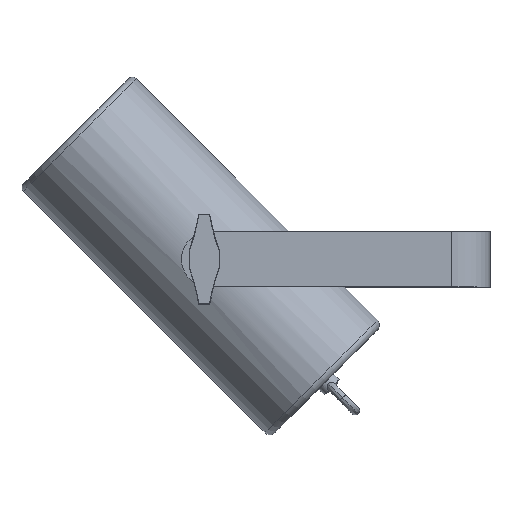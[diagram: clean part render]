
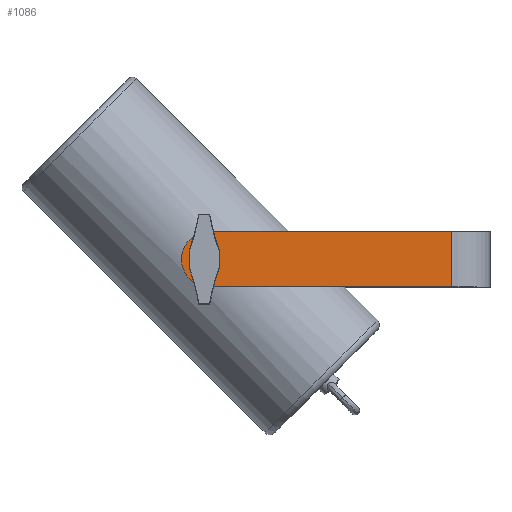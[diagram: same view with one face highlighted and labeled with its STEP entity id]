
A CAD part, top view. The second image highlights one B-rep face of the part: STEP entity #1086.
In plain terms, the highlighted planar face has unit normal (0, 0, 1).
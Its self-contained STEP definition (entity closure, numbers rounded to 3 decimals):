
#76=FACE_BOUND('',#229,.T.);
#106=PLANE('',#1215);
#156=FACE_OUTER_BOUND('',#228,.T.);
#228=EDGE_LOOP('',(#896,#897,#898,#899));
#229=EDGE_LOOP('',(#900));
#301=LINE('',#1757,#366);
#315=LINE('',#1800,#380);
#316=LINE('',#1801,#381);
#366=VECTOR('',#1417,40.);
#380=VECTOR('',#1467,175.);
#381=VECTOR('',#1468,175.);
#416=CIRCLE('',#1184,7.721);
#432=CIRCLE('',#1216,20.);
#502=VERTEX_POINT('',#1715);
#515=VERTEX_POINT('',#1750);
#517=VERTEX_POINT('',#1756);
#527=VERTEX_POINT('',#1797);
#528=VERTEX_POINT('',#1798);
#620=EDGE_CURVE('',#502,#502,#416,.T.);
#639=EDGE_CURVE('',#517,#515,#301,.T.);
#660=EDGE_CURVE('',#527,#528,#432,.T.);
#661=EDGE_CURVE('',#517,#527,#315,.T.);
#662=EDGE_CURVE('',#515,#528,#316,.T.);
#896=ORIENTED_EDGE('',*,*,#660,.F.);
#897=ORIENTED_EDGE('',*,*,#661,.F.);
#898=ORIENTED_EDGE('',*,*,#639,.T.);
#899=ORIENTED_EDGE('',*,*,#662,.T.);
#900=ORIENTED_EDGE('',*,*,#620,.T.);
#1086=ADVANCED_FACE('',(#156,#76),#106,.T.);
#1184=AXIS2_PLACEMENT_3D('',#1717,#1377,#1378);
#1215=AXIS2_PLACEMENT_3D('',#1796,#1463,#1464);
#1216=AXIS2_PLACEMENT_3D('',#1799,#1465,#1466);
#1377=DIRECTION('center_axis',(0.,0.,-1.));
#1378=DIRECTION('ref_axis',(0.,1.,0.));
#1417=DIRECTION('',(0.,1.,0.));
#1463=DIRECTION('center_axis',(0.,0.,1.));
#1464=DIRECTION('ref_axis',(0.,1.,0.));
#1465=DIRECTION('center_axis',(0.,0.,-1.));
#1466=DIRECTION('ref_axis',(0.,-1.,0.));
#1467=DIRECTION('',(-1.,0.,0.));
#1468=DIRECTION('',(-1.,0.,0.));
#1715=CARTESIAN_POINT('',(119.4,-7.721,67.5));
#1717=CARTESIAN_POINT('Origin',(119.4,0.,67.5));
#1750=CARTESIAN_POINT('',(297.9,20.,67.5));
#1756=CARTESIAN_POINT('',(297.9,-20.,67.5));
#1757=CARTESIAN_POINT('',(297.9,-20.,67.5));
#1796=CARTESIAN_POINT('Origin',(325.9,30.,67.5));
#1797=CARTESIAN_POINT('',(122.9,-20.,67.5));
#1798=CARTESIAN_POINT('',(122.9,20.,67.5));
#1799=CARTESIAN_POINT('Origin',(122.9,0.,67.5));
#1800=CARTESIAN_POINT('',(297.9,-20.,67.5));
#1801=CARTESIAN_POINT('',(297.9,20.,67.5));
